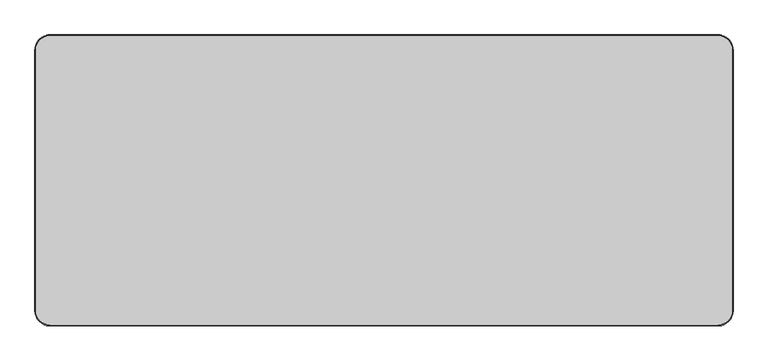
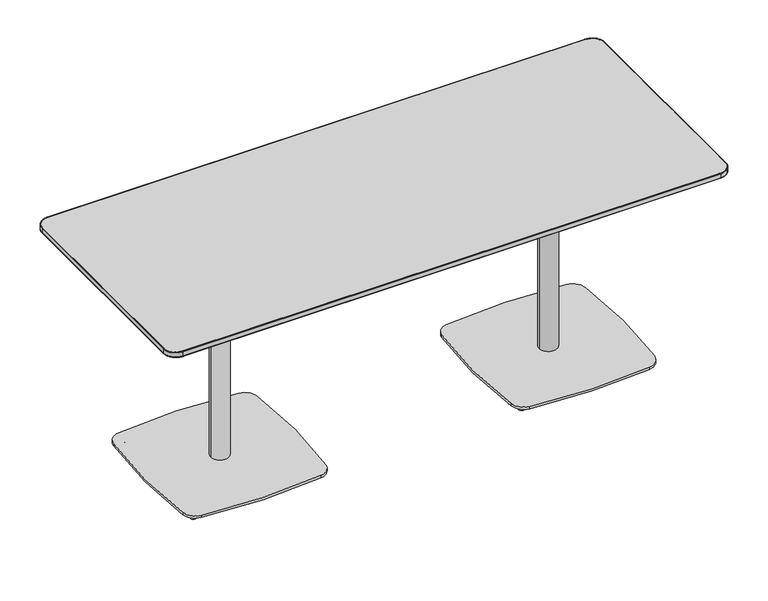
"""IFC4 building model written with IfcOpenShell, lengths in millimetres: furniture geometry, Coalesse_AM_Table_Conference_Montara650_WorkHeight_Rectangular : 30D x 72W."""

from ifc_helpers import new_model, si_unit, point, frame, frame_2d, origin, place, context, project, spatial, polyline, circle_curve, ellipse_curve, trimmed, segment, composite_curve, outline, extrude, source, transform, mapped, element, save
from ifc_brep_helpers import plane_surface, cylinder_surface, revolved_surface, spline_surface, advanced_brep


def furniture_811100f7(model_context):
    return source(origin(), model_context, "Body", "SolidModel", [
        advanced_brep(
        [(749.0044343, 204.892028, 0.0), (728.3026873, 204.892028, 0.0), (753.1315608, 204.892028, 11.9999882), (724.1755608, 204.892028, 11.9999882)],
        [
            (0, 1, circle_curve(frame((738.6535608, 204.892028, 0.0), z_axis=(0.0, 0.0, -1.0), x_axis=(1.0, 0.0, 0.0)), 10.3508735)),
            (1, 0, circle_curve(frame((738.6535608, 204.892028, 0.0), z_axis=(0.0, 0.0, -1.0), x_axis=(-1.0, 0.0, 0.0)), 10.3508735)),
            (2, 3, circle_curve(frame((738.6535608, 204.892028, 11.9999882), z_axis=(0.0, 0.0, 1.0), x_axis=(-1.0, 0.0, 0.0)), 14.478)),
            (3, 2, circle_curve(frame((738.6535608, 204.892028, 11.9999882), z_axis=(0.0, 0.0, 1.0), x_axis=(1.0, 0.0, 0.0)), 14.478)),
            (3, 1),
            (0, 2),
        ],
        [
            plane_surface(frame((738.6535608, 204.892028, 0.0), z_axis=(0.0, 0.0, -1.0), x_axis=(0.0, 1.0, 0.0))),
            plane_surface(frame((738.6535608, 204.892028, 11.9999882), z_axis=(0.0, 0.0, 1.0), x_axis=(0.0, 1.0, 0.0))),
            revolved_surface(polyline([(749.0044342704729, 204.892028, 0.0), (753.1315608, 204.892028, 11.999988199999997)]), (738.6535608, 204.892028, -30.0960871), (0.0, 0.0, 1.0)),
            revolved_surface(polyline([(728.3026873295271, 204.892028, 0.0), (724.1755608, 204.892028, 11.999988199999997)]), (738.6535608, 204.892028, -30.0960871), (0.0, 0.0, 1.0)),
        ],
        [
            (0, [[1, 2]]),
            (1, [[3, 4]]),
            (2, [[-4, 5, -1, 6]]),
            (3, [[-3, -6, -2, -5]]),
        ],
    ),
        advanced_brep(
        [(749.0044343, -204.892028, 0.0), (728.3026873, -204.892028, 0.0), (753.1315608, -204.892028, 11.9999882), (724.1755608, -204.892028, 11.9999882)],
        [
            (0, 1, circle_curve(frame((738.6535608, -204.892028, 0.0), z_axis=(0.0, 0.0, -1.0), x_axis=(1.0, 0.0, 0.0)), 10.3508735)),
            (1, 0, circle_curve(frame((738.6535608, -204.892028, 0.0), z_axis=(0.0, 0.0, -1.0), x_axis=(-1.0, 0.0, 0.0)), 10.3508735)),
            (2, 3, circle_curve(frame((738.6535608, -204.892028, 11.9999882), z_axis=(0.0, 0.0, 1.0), x_axis=(-1.0, 0.0, 0.0)), 14.478)),
            (3, 2, circle_curve(frame((738.6535608, -204.892028, 11.9999882), z_axis=(0.0, 0.0, 1.0), x_axis=(1.0, 0.0, 0.0)), 14.478)),
            (2, 0),
            (1, 3),
        ],
        [
            plane_surface(frame((738.6535608, -204.892028, 0.0), z_axis=(0.0, 0.0, -1.0), x_axis=(0.0, 1.0, 0.0))),
            plane_surface(frame((738.6535608, -204.892028, 11.9999882), z_axis=(0.0, 0.0, 1.0), x_axis=(0.0, 1.0, 0.0))),
            revolved_surface(polyline([(728.3026873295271, -204.892028, 0.0), (724.1755608, -204.892028, 11.999988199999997)]), (738.6535608, -204.892028, -30.0960871), (0.0, 0.0, 1.0)),
            revolved_surface(polyline([(749.0044342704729, -204.892028, 0.0), (753.1315608, -204.892028, 11.999988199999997)]), (738.6535608, -204.892028, -30.0960871), (0.0, 0.0, 1.0)),
        ],
        [
            (0, [[1, 2]]),
            (1, [[3, 4]]),
            (2, [[-3, 5, -2, 6]]),
            (3, [[-4, -6, -1, -5]]),
        ],
    ),
        advanced_brep(
        [(317.7955657, 204.892028, 0.0), (338.4973127, 204.892028, 0.0), (313.6684392, 204.892028, 11.9999882), (342.6244392, 204.892028, 11.9999882)],
        [
            (0, 1, circle_curve(frame((328.1464392, 204.892028, 0.0), z_axis=(0.0, 0.0, -1.0), x_axis=(-1.0, 0.0, 0.0)), 10.3508735)),
            (1, 0, circle_curve(frame((328.1464392, 204.892028, 0.0), z_axis=(0.0, 0.0, -1.0), x_axis=(1.0, 0.0, 0.0)), 10.3508735)),
            (2, 3, circle_curve(frame((328.1464392, 204.892028, 11.9999882), z_axis=(0.0, 0.0, 1.0), x_axis=(1.0, 0.0, 0.0)), 14.478)),
            (3, 2, circle_curve(frame((328.1464392, 204.892028, 11.9999882), z_axis=(0.0, 0.0, 1.0), x_axis=(-1.0, 0.0, 0.0)), 14.478)),
            (2, 0),
            (1, 3),
        ],
        [
            plane_surface(frame((328.1464392, 204.892028, 0.0), z_axis=(0.0, 0.0, -1.0), x_axis=(0.0, -1.0, 0.0))),
            plane_surface(frame((328.1464392, 204.892028, 11.9999882), z_axis=(0.0, 0.0, 1.0), x_axis=(0.0, -1.0, 0.0))),
            revolved_surface(polyline([(338.49731267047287, 204.892028, 0.0), (342.6244392, 204.892028, 11.999988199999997)]), (328.1464392, 204.892028, -30.0960871), (0.0, 0.0, 1.0)),
            revolved_surface(polyline([(317.7955657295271, 204.892028, 0.0), (313.6684392, 204.892028, 11.999988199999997)]), (328.1464392, 204.892028, -30.0960871), (0.0, 0.0, 1.0)),
        ],
        [
            (0, [[1, 2]]),
            (1, [[3, 4]]),
            (2, [[-3, 5, -2, 6]]),
            (3, [[-4, -6, -1, -5]]),
        ],
    ),
        advanced_brep(
        [(317.7955657, -204.892028, 0.0), (338.4973127, -204.892028, 0.0), (313.6684392, -204.892028, 11.9999882), (342.6244392, -204.892028, 11.9999882)],
        [
            (0, 1, circle_curve(frame((328.1464392, -204.892028, 0.0), z_axis=(0.0, 0.0, -1.0), x_axis=(-1.0, 0.0, 0.0)), 10.3508735)),
            (1, 0, circle_curve(frame((328.1464392, -204.892028, 0.0), z_axis=(0.0, 0.0, -1.0), x_axis=(1.0, 0.0, 0.0)), 10.3508735)),
            (2, 3, circle_curve(frame((328.1464392, -204.892028, 11.9999882), z_axis=(0.0, 0.0, 1.0), x_axis=(1.0, 0.0, 0.0)), 14.478)),
            (3, 2, circle_curve(frame((328.1464392, -204.892028, 11.9999882), z_axis=(0.0, 0.0, 1.0), x_axis=(-1.0, 0.0, 0.0)), 14.478)),
            (3, 1),
            (0, 2),
        ],
        [
            plane_surface(frame((328.1464392, -204.892028, 0.0), z_axis=(0.0, 0.0, -1.0), x_axis=(0.0, -1.0, 0.0))),
            plane_surface(frame((328.1464392, -204.892028, 11.9999882), z_axis=(0.0, 0.0, 1.0), x_axis=(0.0, -1.0, 0.0))),
            revolved_surface(polyline([(317.7955657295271, -204.892028, 0.0), (313.6684392, -204.892028, 11.999988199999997)]), (328.1464392, -204.892028, -30.0960871), (0.0, 0.0, 1.0)),
            revolved_surface(polyline([(338.49731267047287, -204.892028, 0.0), (342.6244392, -204.892028, 11.999988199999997)]), (328.1464392, -204.892028, -30.0960871), (0.0, 0.0, 1.0)),
        ],
        [
            (0, [[1, 2]]),
            (1, [[3, 4]]),
            (2, [[-4, 5, -1, 6]]),
            (3, [[-3, -6, -2, -5]]),
        ],
    ),
        extrude(outline(composite_curve([segment(trimmed(circle_curve(frame_2d((534.6702107, -1459.4269529)), 1703.8365498), [point((338.9758413, 233.1340363))], [point((727.7022914, 233.4397294))], False, "CARTESIAN"), True, "CONTINUOUS"), segment(trimmed(circle_curve(frame_2d((722.6664351, 189.2759133)), 44.45), [point((727.7022914, 233.4397294))], [point((766.8410299, 194.2163254))], False, "CARTESIAN"), True, "CONTINUOUS"), segment(trimmed(circle_curve(frame_2d((-969.7397991, 5.89e-05)), 1747.4074894), [point((766.8410299, 194.2163254))], [point((766.838325, -194.2403925))], False, "CARTESIAN"), True, "CONTINUOUS"), segment(trimmed(circle_curve(frame_2d((722.663799, -189.2993652)), 44.45), [point((766.838325, -194.2403925))], [point((727.977927, -233.4305622))], False, "CARTESIAN"), True, "CONTINUOUS"), segment(trimmed(circle_curve(frame_2d((537.7367152, 1346.4283112)), 1591.2717488), [point((727.977927, -233.4305622))], [point((339.4996689, -232.4471911))], False, "CARTESIAN"), True, "CONTINUOUS"), segment(trimmed(circle_curve(frame_2d((345.0371496, -188.3434633)), 44.45), [point((339.4996689, -232.4471911))], [point((300.9116252, -193.704489))], False, "CARTESIAN"), True, "CONTINUOUS"), segment(trimmed(circle_curve(frame_2d((1930.9488879, 4.3367087)), 1642.0236885), [point((300.9116252, -193.704489))], [point((299.9290283, 194.115557))], False, "CARTESIAN"), True, "CONTINUOUS"), segment(trimmed(circle_curve(frame_2d((344.0811518, 188.9781952)), 44.45), [point((299.9290283, 194.115557))], [point((338.9758413, 233.1340363))], False, "CARTESIAN"), True, "CONTINUOUS")], self_intersect=False)), frame((0.0, 0.0, 11.999986), z_axis=(0.0, 0.0, 1.0), x_axis=(1.0, 0.0, 0.0)), (0.0, 0.0, 1.0), 8.0000105),
        advanced_brep(
        [(357.2373868, 0.0, 690.755027), (709.5626132, 0.0, 690.755027), (665.0004101, 0.0, 690.755027), (401.7995899, 0.0, 690.755027), (654.4488662, 0.0, 689.6460151), (412.3511338, 0.0, 689.6460151), (582.1461809, 0.0, 674.9837029), (484.6538191, 0.0, 674.9837029), (570.812985, 0.0, 674.9837029), (495.987015, 0.0, 674.9837029), (503.8504172, 0.0, 686.7852036), (562.9495828, 0.0, 686.7852036), (562.9495828, 0.0, 19.9999965), (503.8504172, 0.0, 19.9999965), (533.4, 0.0, 19.9999965), (533.4, 0.0, 693.930027), (709.5626132, 0.0, 693.930027), (357.2373868, 0.0, 693.930027), (566.7511087, 0.0, 676.4383874), (500.0488913, 0.0, 676.4383874), (565.112334, 0.0, 686.7852036), (501.687666, 0.0, 686.7852036)],
        [
            (0, 1, circle_curve(frame((533.4, 0.0, 690.755027), z_axis=(0.0, 0.0, -1.0), x_axis=(1.0, 0.0, 0.0)), 176.1626132)),
            (1, 2),
            (2, 3, circle_curve(frame((533.4, 0.0, 690.755027), z_axis=(0.0, 0.0, 1.0), x_axis=(1.0, 0.0, 0.0)), 131.6004101)),
            (3, 0),
            (1, 0, circle_curve(frame((533.4, 0.0, 690.755027), z_axis=(0.0, 0.0, -1.0), x_axis=(1.0, 0.0, 0.0)), 176.1626132)),
            (3, 2, circle_curve(frame((533.4, 0.0, 690.755027), z_axis=(0.0, 0.0, 1.0), x_axis=(1.0, 0.0, 0.0)), 131.6004101)),
            (2, 4),
            (4, 5, circle_curve(frame((533.4, 0.0, 689.6460151), z_axis=(0.0, 0.0, 1.0), x_axis=(1.0, 0.0, 0.0)), 121.0488662)),
            (5, 3),
            (5, 4, circle_curve(frame((533.4, 0.0, 689.6460151), z_axis=(0.0, 0.0, 1.0), x_axis=(1.0, 0.0, 0.0)), 121.0488662)),
            (4, 6),
            (6, 7, circle_curve(frame((533.4, 0.0, 674.9837029), z_axis=(0.0, 0.0, 1.0), x_axis=(1.0, 0.0, 0.0)), 48.7461809)),
            (7, 5),
            (7, 6, circle_curve(frame((533.4, 0.0, 674.9837029), z_axis=(0.0, 0.0, 1.0), x_axis=(1.0, 0.0, 0.0)), 48.7461809)),
            (6, 8),
            (8, 9, circle_curve(frame((533.4, 0.0, 674.9837029), z_axis=(0.0, 0.0, 1.0), x_axis=(1.0, 0.0, 0.0)), 37.412985)),
            (9, 7),
            (9, 8, circle_curve(frame((533.4, 0.0, 674.9837029), z_axis=(0.0, 0.0, 1.0), x_axis=(1.0, 0.0, 0.0)), 37.412985)),
            (10, 11, circle_curve(frame((533.4, 0.0, 686.7852036), z_axis=(0.0, 0.0, -1.0), x_axis=(1.0, 0.0, 0.0)), 29.5495828)),
            (11, 12),
            (12, 13, circle_curve(frame((533.4, 0.0, 19.9999965), z_axis=(0.0, 0.0, 1.0), x_axis=(1.0, 0.0, 0.0)), 29.5495828)),
            (13, 10),
            (11, 10, circle_curve(frame((533.4, 0.0, 686.7852036), z_axis=(0.0, 0.0, -1.0), x_axis=(1.0, 0.0, 0.0)), 29.5495828)),
            (13, 12, circle_curve(frame((533.4, 0.0, 19.9999965), z_axis=(0.0, 0.0, 1.0), x_axis=(1.0, 0.0, 0.0)), 29.5495828)),
            (12, 14),
            (14, 13),
            (15, 16),
            (16, 17, circle_curve(frame((533.4, 0.0, 693.930027), z_axis=(0.0, 0.0, 1.0), x_axis=(1.0, 0.0, 0.0)), 176.1626132)),
            (17, 15),
            (17, 16, circle_curve(frame((533.4, 0.0, 693.930027), z_axis=(0.0, 0.0, 1.0), x_axis=(1.0, 0.0, 0.0)), 176.1626132)),
            (16, 1),
            (0, 17),
            (8, 18),
            (18, 19, circle_curve(frame((533.4, 0.0, 676.4383874), z_axis=(0.0, 0.0, 1.0), x_axis=(1.0, 0.0, 0.0)), 33.3511087)),
            (19, 9),
            (19, 18, circle_curve(frame((533.4, 0.0, 676.4383874), z_axis=(0.0, 0.0, 1.0), x_axis=(1.0, 0.0, 0.0)), 33.3511087)),
            (18, 20),
            (20, 21, circle_curve(frame((533.4, 0.0, 686.7852036), z_axis=(0.0, 0.0, 1.0), x_axis=(1.0, 0.0, 0.0)), 31.712334)),
            (21, 19),
            (21, 20, circle_curve(frame((533.4, 0.0, 686.7852036), z_axis=(0.0, 0.0, 1.0), x_axis=(1.0, 0.0, 0.0)), 31.712334)),
            (20, 11),
            (10, 21),
        ],
        [
            plane_surface(frame((533.4, 0.0, 690.755027), z_axis=(0.0, 0.0, -1.0), x_axis=(1.0, 0.0, 0.0))),
            revolved_surface(polyline([(654.4488662, 0.0, 689.6460151), (665.0004101, 0.0, 690.755027)]), (533.4, 0.0, 439.0999965), (0.0, 0.0, 1.0)),
            revolved_surface(polyline([(582.1461809, 0.0, 674.9837029), (654.4488662, 0.0, 689.6460151)]), (533.4, 0.0, 439.0999965), (0.0, 0.0, 1.0)),
            plane_surface(frame((533.4, 0.0, 674.9837029), z_axis=(0.0, 0.0, -1.0), x_axis=(1.0, 0.0, 0.0))),
            cylinder_surface(frame((533.4, 0.0, 439.0999965), z_axis=(0.0, 0.0, 1.0), x_axis=(1.0, 0.0, 0.0)), 29.5495828),
            plane_surface(frame((533.4, 0.0, 19.9999965), z_axis=(0.0, 0.0, -1.0), x_axis=(1.0, 0.0, 0.0))),
            plane_surface(frame((533.4, 0.0, 693.930027), z_axis=(0.0, 0.0, 1.0), x_axis=(1.0, 0.0, 0.0))),
            cylinder_surface(frame((533.4, 0.0, 439.0999965), z_axis=(0.0, 0.0, 1.0), x_axis=(1.0, 0.0, 0.0)), 176.1626132),
            revolved_surface(polyline([(566.7511087, 0.0, 676.4383874), (570.812985, 0.0, 674.9837029)]), (533.4, 0.0, 439.0999965), (0.0, 0.0, 1.0)),
            revolved_surface(polyline([(565.112334, 0.0, 686.7852036), (566.7511087, 0.0, 676.4383874)]), (533.4, 0.0, 439.0999965), (0.0, 0.0, 1.0)),
            plane_surface(frame((533.4, 0.0, 686.7852036), z_axis=(0.0, 0.0, -1.0), x_axis=(1.0, 0.0, 0.0))),
        ],
        [
            (0, [[1, 2, 3, 4]]),
            (0, [[5, -4, 6, -2]]),
            (1, [[-3, 7, 8, 9]]),
            (1, [[-6, -9, 10, -7]]),
            (2, [[-8, 11, 12, 13]]),
            (2, [[-10, -13, 14, -11]]),
            (3, [[-12, 15, 16, 17]]),
            (3, [[-14, -17, 18, -15]]),
            (4, [[19, 20, 21, 22]]),
            (4, [[23, -22, 24, -20]]),
            (5, [[-21, 25, 26]]),
            (5, [[-24, -26, -25]]),
            (6, [[27, 28, 29]]),
            (6, [[-29, 30, -27]]),
            (7, [[-28, 31, -1, 32]]),
            (7, [[-30, -32, -5, -31]]),
            (8, [[-16, 33, 34, 35]]),
            (8, [[-18, -35, 36, -33]]),
            (9, [[-34, 37, 38, 39]]),
            (9, [[-36, -39, 40, -37]]),
            (10, [[-38, 41, -19, 42]]),
            (10, [[-40, -42, -23, -41]]),
        ],
    ),
        advanced_brep(
        [(-738.6535608, 215.2429015, 0.0), (-738.6535608, 194.5411546, 0.0), (-738.6535608, 219.370028, 11.9999882), (-738.6535608, 190.414028, 11.9999882)],
        [
            (0, 1, circle_curve(frame((-738.6535608, 204.892028, 0.0), z_axis=(0.0, 0.0, -1.0), x_axis=(0.0, 1.0, 0.0)), 10.3508735)),
            (1, 0, circle_curve(frame((-738.6535608, 204.892028, 0.0), z_axis=(0.0, 0.0, -1.0), x_axis=(0.0, -1.0, 0.0)), 10.3508735)),
            (2, 3, circle_curve(frame((-738.6535608, 204.892028, 11.9999882), z_axis=(0.0, 0.0, 1.0), x_axis=(0.0, -1.0, 0.0)), 14.478)),
            (3, 2, circle_curve(frame((-738.6535608, 204.892028, 11.9999882), z_axis=(0.0, 0.0, 1.0), x_axis=(0.0, 1.0, 0.0)), 14.478)),
            (2, 0),
            (1, 3),
        ],
        [
            plane_surface(frame((-738.6535608, 204.892028, 0.0), z_axis=(0.0, 0.0, -1.0), x_axis=(-1.0, 0.0, 0.0))),
            plane_surface(frame((-738.6535608, 204.892028, 11.9999882), z_axis=(0.0, 0.0, 1.0), x_axis=(-1.0, 0.0, 0.0))),
            revolved_surface(polyline([(-738.6535608, 194.5411545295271, 0.0), (-738.6535608, 190.414028, 11.999988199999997)]), (-738.6535608, 204.892028, -30.0960871), (0.0, 0.0, 1.0)),
            revolved_surface(polyline([(-738.6535608, 215.2429014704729, 0.0), (-738.6535608, 219.370028, 11.999988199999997)]), (-738.6535608, 204.892028, -30.0960871), (0.0, 0.0, 1.0)),
        ],
        [
            (0, [[1, 2]]),
            (1, [[3, 4]]),
            (2, [[-3, 5, -2, 6]]),
            (3, [[-4, -6, -1, -5]]),
        ],
    ),
        advanced_brep(
        [(-738.6535608, -194.5411546, 0.0), (-738.6535608, -215.2429015, 0.0), (-738.6535608, -190.414028, 11.9999882), (-738.6535608, -219.370028, 11.9999882)],
        [
            (0, 1, circle_curve(frame((-738.6535608, -204.892028, 0.0), z_axis=(0.0, 0.0, -1.0), x_axis=(0.0, 1.0, 0.0)), 10.3508735)),
            (1, 0, circle_curve(frame((-738.6535608, -204.892028, 0.0), z_axis=(0.0, 0.0, -1.0), x_axis=(0.0, -1.0, 0.0)), 10.3508735)),
            (2, 3, circle_curve(frame((-738.6535608, -204.892028, 11.9999882), z_axis=(0.0, 0.0, 1.0), x_axis=(0.0, -1.0, 0.0)), 14.478)),
            (3, 2, circle_curve(frame((-738.6535608, -204.892028, 11.9999882), z_axis=(0.0, 0.0, 1.0), x_axis=(0.0, 1.0, 0.0)), 14.478)),
            (3, 1),
            (0, 2),
        ],
        [
            plane_surface(frame((-738.6535608, -204.892028, 0.0), z_axis=(0.0, 0.0, -1.0), x_axis=(-1.0, 0.0, 0.0))),
            plane_surface(frame((-738.6535608, -204.892028, 11.9999882), z_axis=(0.0, 0.0, 1.0), x_axis=(-1.0, 0.0, 0.0))),
            revolved_surface(polyline([(-738.6535608, -194.5411545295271, 0.0), (-738.6535608, -190.414028, 11.999988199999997)]), (-738.6535608, -204.892028, -30.0960871), (0.0, 0.0, 1.0)),
            revolved_surface(polyline([(-738.6535608, -215.2429014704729, 0.0), (-738.6535608, -219.370028, 11.999988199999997)]), (-738.6535608, -204.892028, -30.0960871), (0.0, 0.0, 1.0)),
        ],
        [
            (0, [[1, 2]]),
            (1, [[3, 4]]),
            (2, [[-4, 5, -1, 6]]),
            (3, [[-3, -6, -2, -5]]),
        ],
    ),
        advanced_brep(
        [(-328.1464392, 194.5411546, 0.0), (-328.1464392, 215.2429015, 0.0), (-328.1464392, 190.414028, 11.9999882), (-328.1464392, 219.370028, 11.9999882)],
        [
            (0, 1, circle_curve(frame((-328.1464392, 204.892028, 0.0), z_axis=(0.0, 0.0, -1.0), x_axis=(0.0, -1.0, 0.0)), 10.3508735)),
            (1, 0, circle_curve(frame((-328.1464392, 204.892028, 0.0), z_axis=(0.0, 0.0, -1.0), x_axis=(0.0, 1.0, 0.0)), 10.3508735)),
            (2, 3, circle_curve(frame((-328.1464392, 204.892028, 11.9999882), z_axis=(0.0, 0.0, 1.0), x_axis=(0.0, 1.0, 0.0)), 14.478)),
            (3, 2, circle_curve(frame((-328.1464392, 204.892028, 11.9999882), z_axis=(0.0, 0.0, 1.0), x_axis=(0.0, -1.0, 0.0)), 14.478)),
            (3, 1),
            (0, 2),
        ],
        [
            plane_surface(frame((-328.1464392, 204.892028, 0.0), z_axis=(0.0, 0.0, -1.0), x_axis=(1.0, 0.0, 0.0))),
            plane_surface(frame((-328.1464392, 204.892028, 11.9999882), z_axis=(0.0, 0.0, 1.0), x_axis=(1.0, 0.0, 0.0))),
            revolved_surface(polyline([(-328.1464392, 194.5411545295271, 0.0), (-328.1464392, 190.414028, 11.999988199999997)]), (-328.1464392, 204.892028, -30.0960871), (0.0, 0.0, 1.0)),
            revolved_surface(polyline([(-328.1464392, 215.2429014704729, 0.0), (-328.1464392, 219.370028, 11.999988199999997)]), (-328.1464392, 204.892028, -30.0960871), (0.0, 0.0, 1.0)),
        ],
        [
            (0, [[1, 2]]),
            (1, [[3, 4]]),
            (2, [[-4, 5, -1, 6]]),
            (3, [[-3, -6, -2, -5]]),
        ],
    ),
        advanced_brep(
        [(-328.1464392, -215.2429015, 0.0), (-328.1464392, -194.5411546, 0.0), (-328.1464392, -219.370028, 11.9999882), (-328.1464392, -190.414028, 11.9999882)],
        [
            (0, 1, circle_curve(frame((-328.1464392, -204.892028, 0.0), z_axis=(0.0, 0.0, -1.0), x_axis=(0.0, -1.0, 0.0)), 10.3508735)),
            (1, 0, circle_curve(frame((-328.1464392, -204.892028, 0.0), z_axis=(0.0, 0.0, -1.0), x_axis=(0.0, 1.0, 0.0)), 10.3508735)),
            (2, 3, circle_curve(frame((-328.1464392, -204.892028, 11.9999882), z_axis=(0.0, 0.0, 1.0), x_axis=(0.0, 1.0, 0.0)), 14.478)),
            (3, 2, circle_curve(frame((-328.1464392, -204.892028, 11.9999882), z_axis=(0.0, 0.0, 1.0), x_axis=(0.0, -1.0, 0.0)), 14.478)),
            (2, 0),
            (1, 3),
        ],
        [
            plane_surface(frame((-328.1464392, -204.892028, 0.0), z_axis=(0.0, 0.0, -1.0), x_axis=(1.0, 0.0, 0.0))),
            plane_surface(frame((-328.1464392, -204.892028, 11.9999882), z_axis=(0.0, 0.0, 1.0), x_axis=(1.0, 0.0, 0.0))),
            revolved_surface(polyline([(-328.1464392, -194.5411545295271, 0.0), (-328.1464392, -190.414028, 11.999988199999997)]), (-328.1464392, -204.892028, -30.0960871), (0.0, 0.0, 1.0)),
            revolved_surface(polyline([(-328.1464392, -215.2429014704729, 0.0), (-328.1464392, -219.370028, 11.999988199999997)]), (-328.1464392, -204.892028, -30.0960871), (0.0, 0.0, 1.0)),
        ],
        [
            (0, [[1, 2]]),
            (1, [[3, 4]]),
            (2, [[-3, 5, -2, 6]]),
            (3, [[-4, -6, -1, -5]]),
        ],
    ),
        extrude(outline(composite_curve([segment(trimmed(circle_curve(frame_2d((-344.0811518, 188.9781952)), 44.45), [point((-338.9758413, 233.1340363))], [point((-299.9290283, 194.115557))], False, "CARTESIAN"), True, "CONTINUOUS"), segment(trimmed(circle_curve(frame_2d((-1930.9488879, 4.3367087)), 1642.0236885), [point((-299.9290283, 194.115557))], [point((-300.9116252, -193.704489))], False, "CARTESIAN"), True, "CONTINUOUS"), segment(trimmed(circle_curve(frame_2d((-345.0371496, -188.3434633)), 44.45), [point((-300.9116252, -193.704489))], [point((-339.4996689, -232.4471911))], False, "CARTESIAN"), True, "CONTINUOUS"), segment(trimmed(circle_curve(frame_2d((-537.7367152, 1346.4283112)), 1591.2717488), [point((-339.4996689, -232.4471911))], [point((-727.977927, -233.4305622))], False, "CARTESIAN"), True, "CONTINUOUS"), segment(trimmed(circle_curve(frame_2d((-722.663799, -189.2993652)), 44.45), [point((-727.977927, -233.4305622))], [point((-766.838325, -194.2403925))], False, "CARTESIAN"), True, "CONTINUOUS"), segment(trimmed(circle_curve(frame_2d((969.7397991, 5.89e-05)), 1747.4074894), [point((-766.838325, -194.2403925))], [point((-766.8410299, 194.2163254))], False, "CARTESIAN"), True, "CONTINUOUS"), segment(trimmed(circle_curve(frame_2d((-722.6664351, 189.2759133)), 44.45), [point((-766.8410299, 194.2163254))], [point((-727.7022914, 233.4397294))], False, "CARTESIAN"), True, "CONTINUOUS"), segment(trimmed(circle_curve(frame_2d((-534.6702107, -1459.4269529)), 1703.8365498), [point((-727.7022914, 233.4397294))], [point((-338.9758413, 233.1340363))], False, "CARTESIAN"), True, "CONTINUOUS")], self_intersect=False)), frame((0.0, 0.0, 11.999986), z_axis=(0.0, 0.0, 1.0), x_axis=(1.0, 0.0, 0.0)), (0.0, 0.0, 1.0), 8.0000105),
        advanced_brep(
        [(849.4626362, 316.0635082, 693.930027), (849.4626362, -316.0635082, 693.930027), (-849.4626362, -316.0635082, 693.930027), (-849.4626362, 316.0635082, 693.930027), (874.188625, 378.968, 706.195891), (-874.188625, 378.968, 706.195891), (-912.288625, 340.868, 706.195891), (-912.288625, -340.868, 706.195891), (-874.188625, -378.968, 706.195891), (874.188625, -378.968, 706.195891), (912.288625, -340.868, 706.195891), (912.288625, 340.868, 706.195891)],
        [
            (0, 1),
            (1, 2),
            (2, 3),
            (3, 0),
            (4, 5),
            (5, 6, circle_curve(frame((-874.188625, 340.868, 706.195891), z_axis=(0.0, 0.0, 1.0), x_axis=(1.0, 0.0, 0.0)), 38.1)),
            (6, 7),
            (7, 8, circle_curve(frame((-874.188625, -340.868, 706.195891), z_axis=(0.0, 0.0, 1.0), x_axis=(1.0, 0.0, 0.0)), 38.1)),
            (8, 9),
            (9, 10, circle_curve(frame((874.188625, -340.868, 706.195891), z_axis=(0.0, 0.0, 1.0), x_axis=(1.0, 0.0, 0.0)), 38.1)),
            (10, 11),
            (11, 4, circle_curve(frame((874.188625, 340.868, 706.195891), z_axis=(0.0, 0.0, 1.0), x_axis=(1.0, 0.0, 0.0)), 38.1)),
            (11, 0),
            (0, 4),
            (10, 1),
            (9, 1),
            (8, 2),
            (7, 2),
            (6, 3),
            (5, 3),
        ],
        [
            plane_surface(frame((0.0, 0.0, 693.930027), z_axis=(0.0, 0.0, -1.0), x_axis=(-1.0, 0.0, 0.0))),
            plane_surface(frame((0.0, 0.0, 706.195891), z_axis=(0.0, 0.0, 1.0), x_axis=(-1.0, 0.0, 0.0))),
            spline_surface(2, 1, [[(874.188625, 378.968, 706.195891), (849.4626362, 316.0635082, 693.930027)], [(912.288625, 378.968, 706.195891), (849.4626362, 316.0635082, 693.930027)], [(912.288625, 340.868, 706.195891), (849.4626362, 316.0635082, 693.930027)]], [3, 3], [2, 2], [0.0, 1.0], [0.0, 1.0], weights=[[1.0, 1.0], [0.7071067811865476, 0.7071067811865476], [1.0, 1.0]]),
            plane_surface(frame((912.288625, 0.0, 706.195891), z_axis=(0.19161772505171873, 0.0, -0.9814696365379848), x_axis=(0.0, -1.0, 0.0))),
            spline_surface(2, 1, [[(912.288625, -340.868, 706.195891), (849.4626362, -316.0635082, 693.930027)], [(912.288625, -378.968, 706.195891), (849.4626362, -316.0635082, 693.930027)], [(874.188625, -378.968, 706.195891), (849.4626362, -316.0635082, 693.930027)]], [3, 3], [2, 2], [0.0, 1.0], [0.0, 1.0], weights=[[1.0, 1.0], [0.7071067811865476, 0.7071067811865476], [1.0, 1.0]]),
            plane_surface(frame((0.0, -378.968, 706.195891), z_axis=(0.0, -0.19138735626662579, -0.9815145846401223), x_axis=(-1.0, 0.0, 0.0))),
            spline_surface(2, 1, [[(-874.188625, -378.968, 706.195891), (-849.4626362, -316.0635082, 693.930027)], [(-912.288625, -378.968, 706.195891), (-849.4626362, -316.0635082, 693.930027)], [(-912.288625, -340.868, 706.195891), (-849.4626362, -316.0635082, 693.930027)]], [3, 3], [2, 2], [0.0, 1.0], [0.0, 1.0], weights=[[1.0, 1.0], [0.7071067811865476, 0.7071067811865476], [1.0, 1.0]]),
            plane_surface(frame((-912.288625, 0.0, 706.195891), z_axis=(-0.1916177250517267, 0.0, -0.9814696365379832), x_axis=(0.0, 1.0, 0.0))),
            spline_surface(2, 1, [[(-912.288625, 340.868, 706.195891), (-849.4626362, 316.0635082, 693.930027)], [(-912.288625, 378.968, 706.195891), (-849.4626362, 316.0635082, 693.930027)], [(-874.188625, 378.968, 706.195891), (-849.4626362, 316.0635082, 693.930027)]], [3, 3], [2, 2], [0.0, 1.0], [0.0, 1.0], weights=[[1.0, 1.0], [0.7071067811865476, 0.7071067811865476], [1.0, 1.0]]),
            plane_surface(frame((0.0, 378.968, 706.195891), z_axis=(0.0, 0.19138735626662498, -0.9815145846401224), x_axis=(1.0, 0.0, 0.0))),
        ],
        [
            (0, [[1, 2, 3, 4]]),
            (1, [[5, 6, 7, 8, 9, 10, 11, 12]]),
            (2, [[-12, 13, 14]]),
            (3, [[-11, 15, -1, -13]]),
            (4, [[-10, 16, -15]]),
            (5, [[-9, 17, -2, -16]]),
            (6, [[-8, 18, -17]]),
            (7, [[-7, 19, -3, -18]]),
            (8, [[-6, 20, -19]]),
            (9, [[-5, -14, -4, -20]]),
        ],
    ),
        extrude(outline(composite_curve([segment(trimmed(circle_curve(frame_2d((874.188625, 340.868)), 38.1), [point((874.188625, 378.968))], [point((912.288625, 340.868))], False, "CARTESIAN"), True, "CONTINUOUS"), segment(polyline([(912.288625, 340.868), (912.288625, -340.868)]), True, "CONTINUOUS"), segment(trimmed(circle_curve(frame_2d((874.188625, -340.868)), 38.1), [point((912.288625, -340.868))], [point((874.188625, -378.968))], False, "CARTESIAN"), True, "CONTINUOUS"), segment(polyline([(874.188625, -378.968), (-874.188625, -378.968)]), True, "CONTINUOUS"), segment(trimmed(circle_curve(frame_2d((-874.188625, -340.868)), 38.1), [point((-874.188625, -378.968))], [point((-912.288625, -340.868))], False, "CARTESIAN"), True, "CONTINUOUS"), segment(polyline([(-912.288625, -340.868), (-912.288625, 340.868)]), True, "CONTINUOUS"), segment(trimmed(circle_curve(frame_2d((-874.188625, 340.868)), 38.1), [point((-912.288625, 340.868))], [point((-874.188625, 378.968))], False, "CARTESIAN"), True, "CONTINUOUS"), segment(polyline([(-874.188625, 378.968), (874.188625, 378.968)]), True, "CONTINUOUS")], self_intersect=False)), frame((0.0, 0.0, 706.195891), z_axis=(0.0, 0.0, 1.0), x_axis=(1.0, 0.0, 0.0)), (0.0, 0.0, 1.0), 17.704109),
        advanced_brep(
        [(-914.3644915, 340.868, 708.1278467), (-874.188625, 381.0438665, 708.1278467), (-874.188625, 378.968, 706.195891), (-912.288625, 340.868, 706.195891), (-914.3644915, 340.868, 721.8999283), (-874.188625, 381.0438665, 721.8999283), (-912.288625, 340.868, 723.9), (-874.188625, 378.968, 723.9), (-912.288625, -340.868, 706.195891), (-914.3644915, -340.868, 708.1278467), (-914.3644915, -340.868, 721.8999283), (-912.288625, -340.868, 723.9), (-874.188625, -381.0438665, 708.1278467), (-874.188625, -378.968, 706.195891), (-874.188625, -381.0438665, 721.8999283), (-874.188625, -378.968, 723.9), (874.188625, -378.968, 706.195891), (874.188625, -381.0438665, 708.1278467), (874.188625, -381.0438665, 721.8999283), (874.188625, -378.968, 723.9), (914.3644915, -340.868, 708.1278467), (912.288625, -340.868, 706.195891), (914.3644915, -340.868, 721.8999283), (912.288625, -340.868, 723.9), (912.288625, 340.868, 706.195891), (914.3644915, 340.868, 708.1278467), (914.3644915, 340.868, 721.8999283), (912.288625, 340.868, 723.9), (874.188625, 381.0438665, 708.1278467), (874.188625, 378.968, 706.195891), (874.188625, 381.0438665, 721.8999283), (874.188625, 378.968, 723.9)],
        [
            (0, 1, circle_curve(frame((-874.188625, 340.868, 708.1278467), z_axis=(0.0, 0.0, -1.0), x_axis=(0.0, 1.0, 0.0)), 40.1758665)),
            (1, 2, circle_curve(frame((-874.188625, 379.1069224, 708.1278467), z_axis=(-1.0, 0.0, 0.0), x_axis=(0.0, -1.0, 0.0)), 1.9369441)),
            (2, 3, circle_curve(frame((-874.188625, 340.868, 706.195891), z_axis=(0.0, 0.0, 1.0), x_axis=(0.0, 1.0, 0.0)), 38.1)),
            (3, 0, circle_curve(frame((-912.4275474, 340.868, 708.1278467), z_axis=(0.0, 1.0, 0.0), x_axis=(1.0, 0.0, 0.0)), 1.9369441)),
            (4, 5, circle_curve(frame((-874.188625, 340.868, 721.8999283), z_axis=(0.0, 0.0, -1.0), x_axis=(0.0, 1.0, 0.0)), 40.1758665)),
            (5, 1),
            (0, 4),
            (6, 7, circle_curve(frame((-874.188625, 340.868, 723.9), z_axis=(0.0, 0.0, -1.0), x_axis=(0.0, 1.0, 0.0)), 38.1)),
            (7, 5, circle_curve(frame((-874.188625, 379.0424111, 721.8999283), z_axis=(-1.0, 0.0, 0.0), x_axis=(0.0, -1.0, 0.0)), 2.0014554)),
            (4, 6, circle_curve(frame((-912.3630361, 340.868, 721.8999283), z_axis=(0.0, 1.0, 0.0), x_axis=(1.0, 0.0, 0.0)), 2.0014554)),
            (2, 7),
            (6, 3),
            (3, 8),
            (8, 9, circle_curve(frame((-912.4275474, -340.868, 708.1278467), z_axis=(0.0, 1.0, 0.0), x_axis=(1.0, 0.0, 0.0)), 1.9369441)),
            (9, 0),
            (9, 10),
            (10, 4),
            (10, 11, circle_curve(frame((-912.3630361, -340.868, 721.8999283), z_axis=(0.0, 1.0, 0.0), x_axis=(1.0, 0.0, 0.0)), 2.0014554)),
            (11, 6),
            (11, 8),
            (12, 9, circle_curve(frame((-874.188625, -340.868, 708.1278467), z_axis=(0.0, 0.0, -1.0), x_axis=(-1.0, 0.0, 0.0)), 40.1758665)),
            (8, 13, circle_curve(frame((-874.188625, -340.868, 706.195891), z_axis=(0.0, 0.0, 1.0), x_axis=(-1.0, 0.0, 0.0)), 38.1)),
            (13, 12, circle_curve(frame((-874.188625, -379.1069224, 708.1278467), z_axis=(-1.0, 0.0, 0.0), x_axis=(0.0, 1.0, 0.0)), 1.9369441)),
            (14, 10, circle_curve(frame((-874.188625, -340.868, 721.8999283), z_axis=(0.0, 0.0, -1.0), x_axis=(-1.0, 0.0, 0.0)), 40.1758665)),
            (12, 14),
            (15, 11, circle_curve(frame((-874.188625, -340.868, 723.9), z_axis=(0.0, 0.0, -1.0), x_axis=(-1.0, 0.0, 0.0)), 38.1)),
            (14, 15, circle_curve(frame((-874.188625, -379.0424111, 721.8999283), z_axis=(-1.0, 0.0, 0.0), x_axis=(0.0, 1.0, 0.0)), 2.0014554)),
            (15, 13),
            (13, 16),
            (16, 17, circle_curve(frame((874.188625, -379.1069224, 708.1278467), z_axis=(-1.0, 0.0, 0.0), x_axis=(0.0, 1.0, 0.0)), 1.9369441)),
            (17, 12),
            (17, 18),
            (18, 14),
            (18, 19, circle_curve(frame((874.188625, -379.0424111, 721.8999283), z_axis=(-1.0, 0.0, 0.0), x_axis=(0.0, 1.0, 0.0)), 2.0014554)),
            (19, 15),
            (19, 16),
            (20, 17, circle_curve(frame((874.188625, -340.868, 708.1278467), z_axis=(0.0, 0.0, -1.0), x_axis=(0.0, -1.0, 0.0)), 40.1758665)),
            (16, 21, circle_curve(frame((874.188625, -340.868, 706.195891), z_axis=(0.0, 0.0, 1.0), x_axis=(0.0, -1.0, 0.0)), 38.1)),
            (21, 20, circle_curve(frame((912.4275474, -340.868, 708.1278467), z_axis=(0.0, -1.0, 0.0), x_axis=(-1.0, 0.0, 0.0)), 1.9369441)),
            (22, 18, circle_curve(frame((874.188625, -340.868, 721.8999283), z_axis=(0.0, 0.0, -1.0), x_axis=(0.0, -1.0, 0.0)), 40.1758665)),
            (20, 22),
            (23, 19, circle_curve(frame((874.188625, -340.868, 723.9), z_axis=(0.0, 0.0, -1.0), x_axis=(0.0, -1.0, 0.0)), 38.1)),
            (22, 23, circle_curve(frame((912.3630361, -340.868, 721.8999283), z_axis=(0.0, -1.0, 0.0), x_axis=(-1.0, 0.0, 0.0)), 2.0014554)),
            (23, 21),
            (21, 24),
            (24, 25, circle_curve(frame((912.4275474, 340.868, 708.1278467), z_axis=(0.0, -1.0, 0.0), x_axis=(-1.0, 0.0, 0.0)), 1.9369441)),
            (25, 20),
            (25, 26),
            (26, 22),
            (26, 27, circle_curve(frame((912.3630361, 340.868, 721.8999283), z_axis=(0.0, -1.0, 0.0), x_axis=(-1.0, 0.0, 0.0)), 2.0014554)),
            (27, 23),
            (27, 24),
            (28, 25, circle_curve(frame((874.188625, 340.868, 708.1278467), z_axis=(0.0, 0.0, -1.0), x_axis=(1.0, 0.0, 0.0)), 40.1758665)),
            (24, 29, circle_curve(frame((874.188625, 340.868, 706.195891), z_axis=(0.0, 0.0, 1.0), x_axis=(1.0, 0.0, 0.0)), 38.1)),
            (29, 28, circle_curve(frame((874.188625, 379.1069224, 708.1278467), z_axis=(1.0, 0.0, 0.0), x_axis=(0.0, -1.0, 0.0)), 1.9369441)),
            (30, 26, circle_curve(frame((874.188625, 340.868, 721.8999283), z_axis=(0.0, 0.0, -1.0), x_axis=(1.0, 0.0, 0.0)), 40.1758665)),
            (28, 30),
            (31, 27, circle_curve(frame((874.188625, 340.868, 723.9), z_axis=(0.0, 0.0, -1.0), x_axis=(1.0, 0.0, 0.0)), 38.1)),
            (30, 31, circle_curve(frame((874.188625, 379.0424111, 721.8999283), z_axis=(1.0, 0.0, 0.0), x_axis=(0.0, -1.0, 0.0)), 2.0014554)),
            (31, 29),
            (29, 2),
            (1, 28),
            (5, 30),
            (7, 31),
        ],
        [
            revolved_surface(trimmed(ellipse_curve(frame((-874.188625, 379.1069224, 708.1278467), z_axis=(1.0, 0.0, 0.0), x_axis=(0.0, -1.0, 0.0)), 1.9369441, 1.9369441), [point((-874.188625, 378.968, 706.195891))], [point((-874.188625, 381.0438665, 708.1278467))], True, "CARTESIAN"), (-874.188625, 340.868, 0.0), (0.0, 0.0, 1.0)),
            cylinder_surface(frame((-874.188625, 340.868, 0.0), z_axis=(0.0, 0.0, 1.0), x_axis=(0.0, 1.0, 0.0)), 40.1758665),
            revolved_surface(trimmed(ellipse_curve(frame((-874.188625, 379.0424111, 721.8999283), z_axis=(1.0, 0.0, 0.0), x_axis=(0.0, -1.0, 0.0)), 2.0014554, 2.0014554), [point((-874.188625, 381.0438665, 721.8999283))], [point((-874.188625, 378.968, 723.9))], True, "CARTESIAN"), (-874.188625, 340.868, 0.0), (0.0, 0.0, 1.0)),
            revolved_surface(polyline([(-874.188625, 378.968, 723.9), (-874.188625, 378.968, 706.195891)]), (-874.188625, 340.868, 0.0), (0.0, 0.0, 1.0)),
            cylinder_surface(frame((-912.4275474, 340.868, 708.1278467), z_axis=(0.0, 1.0, 0.0), x_axis=(1.0, 0.0, 0.0)), 1.9369441),
            plane_surface(frame((-914.3644915, 340.868, 708.1278467), z_axis=(-1.0, 0.0, 0.0), x_axis=(0.0, -1.0, 0.0))),
            cylinder_surface(frame((-912.3630361, 340.868, 721.8999283), z_axis=(0.0, 1.0, 0.0), x_axis=(1.0, 0.0, 0.0)), 2.0014554),
            plane_surface(frame((-912.288625, 340.868, 723.9), z_axis=(1.0, 0.0, 0.0), x_axis=(0.0, -1.0, 0.0))),
            revolved_surface(trimmed(ellipse_curve(frame((-912.4275474, -340.868, 708.1278467), z_axis=(0.0, 1.0, 0.0), x_axis=(1.0, 0.0, 0.0)), 1.9369441, 1.9369441), [point((-912.288625, -340.868, 706.195891))], [point((-914.3644915, -340.868, 708.1278467))], True, "CARTESIAN"), (-874.188625, -340.868, 0.0), (0.0, 0.0, 1.0)),
            cylinder_surface(frame((-874.188625, -340.868, 0.0), z_axis=(0.0, 0.0, 1.0), x_axis=(-1.0, 0.0, 0.0)), 40.1758665),
            revolved_surface(trimmed(ellipse_curve(frame((-912.3630361, -340.868, 721.8999283), z_axis=(0.0, 1.0, 0.0), x_axis=(1.0, 0.0, 0.0)), 2.0014554, 2.0014554), [point((-914.3644915, -340.868, 721.8999283))], [point((-912.288625, -340.868, 723.9))], True, "CARTESIAN"), (-874.188625, -340.868, 0.0), (0.0, 0.0, 1.0)),
            revolved_surface(polyline([(-912.288625, -340.868, 723.9), (-912.288625, -340.868, 706.195891)]), (-874.188625, -340.868, 0.0), (0.0, 0.0, 1.0)),
            cylinder_surface(frame((-874.188625, -379.1069224, 708.1278467), z_axis=(-1.0, 0.0, 0.0), x_axis=(0.0, 1.0, 0.0)), 1.9369441),
            plane_surface(frame((-874.188625, -381.0438665, 708.1278467), z_axis=(0.0, -1.0, 0.0), x_axis=(1.0, 0.0, 0.0))),
            cylinder_surface(frame((-874.188625, -379.0424111, 721.8999283), z_axis=(-1.0, 0.0, 0.0), x_axis=(0.0, 1.0, 0.0)), 2.0014554),
            plane_surface(frame((-874.188625, -378.968, 723.9), z_axis=(0.0, 1.0, 0.0), x_axis=(1.0, 0.0, 0.0))),
            revolved_surface(trimmed(ellipse_curve(frame((874.188625, -379.1069224, 708.1278467), z_axis=(-1.0, 0.0, 0.0), x_axis=(0.0, 1.0, 0.0)), 1.9369441, 1.9369441), [point((874.188625, -378.968, 706.195891))], [point((874.188625, -381.0438665, 708.1278467))], True, "CARTESIAN"), (874.188625, -340.868, 0.0), (0.0, 0.0, 1.0)),
            cylinder_surface(frame((874.188625, -340.868, 0.0), z_axis=(0.0, 0.0, 1.0), x_axis=(0.0, -1.0, 0.0)), 40.1758665),
            revolved_surface(trimmed(ellipse_curve(frame((874.188625, -379.0424111, 721.8999283), z_axis=(-1.0, 0.0, 0.0), x_axis=(0.0, 1.0, 0.0)), 2.0014554, 2.0014554), [point((874.188625, -381.0438665, 721.8999283))], [point((874.188625, -378.968, 723.9))], True, "CARTESIAN"), (874.188625, -340.868, 0.0), (0.0, 0.0, 1.0)),
            revolved_surface(polyline([(874.188625, -378.968, 723.9), (874.188625, -378.968, 706.195891)]), (874.188625, -340.868, 0.0), (0.0, 0.0, 1.0)),
            cylinder_surface(frame((912.4275474, -340.868, 708.1278467), z_axis=(0.0, -1.0, 0.0), x_axis=(-1.0, 0.0, 0.0)), 1.9369441),
            plane_surface(frame((914.3644915, -340.868, 708.1278467), z_axis=(1.0, 0.0, 0.0), x_axis=(0.0, 1.0, 0.0))),
            cylinder_surface(frame((912.3630361, -340.868, 721.8999283), z_axis=(0.0, -1.0, 0.0), x_axis=(-1.0, 0.0, 0.0)), 2.0014554),
            plane_surface(frame((912.288625, -340.868, 723.9), z_axis=(-1.0, 0.0, 0.0), x_axis=(0.0, 1.0, 0.0))),
            revolved_surface(trimmed(ellipse_curve(frame((912.4275474, 340.868, 708.1278467), z_axis=(0.0, -1.0, 0.0), x_axis=(-1.0, 0.0, 0.0)), 1.9369441, 1.9369441), [point((912.288625, 340.868, 706.195891))], [point((914.3644915, 340.868, 708.1278467))], True, "CARTESIAN"), (874.188625, 340.868, 0.0), (0.0, 0.0, 1.0)),
            cylinder_surface(frame((874.188625, 340.868, 0.0), z_axis=(0.0, 0.0, 1.0), x_axis=(1.0, 0.0, 0.0)), 40.1758665),
            revolved_surface(trimmed(ellipse_curve(frame((912.3630361, 340.868, 721.8999283), z_axis=(0.0, -1.0, 0.0), x_axis=(-1.0, 0.0, 0.0)), 2.0014554, 2.0014554), [point((914.3644915, 340.868, 721.8999283))], [point((912.288625, 340.868, 723.9))], True, "CARTESIAN"), (874.188625, 340.868, 0.0), (0.0, 0.0, 1.0)),
            revolved_surface(polyline([(912.288625, 340.868, 723.9), (912.288625, 340.868, 706.195891)]), (874.188625, 340.868, 0.0), (0.0, 0.0, 1.0)),
            cylinder_surface(frame((874.188625, 379.1069224, 708.1278467), z_axis=(1.0, 0.0, 0.0), x_axis=(0.0, -1.0, 0.0)), 1.9369441),
            plane_surface(frame((874.188625, 381.0438665, 708.1278467), z_axis=(0.0, 1.0, 0.0), x_axis=(-1.0, 0.0, 0.0))),
            cylinder_surface(frame((874.188625, 379.0424111, 721.8999283), z_axis=(1.0, 0.0, 0.0), x_axis=(0.0, -1.0, 0.0)), 2.0014554),
            plane_surface(frame((874.188625, 378.968, 723.9), z_axis=(0.0, -1.0, 0.0), x_axis=(-1.0, 0.0, 0.0))),
        ],
        [
            (0, [[1, 2, 3, 4]]),
            (1, [[5, 6, -1, 7]]),
            (2, [[8, 9, -5, 10]]),
            (3, [[-3, 11, -8, 12]]),
            (4, [[-4, 13, 14, 15]]),
            (5, [[-7, -15, 16, 17]]),
            (6, [[-10, -17, 18, 19]]),
            (7, [[-12, -19, 20, -13]]),
            (8, [[21, -14, 22, 23]]),
            (9, [[24, -16, -21, 25]]),
            (10, [[26, -18, -24, 27]]),
            (11, [[-22, -20, -26, 28]]),
            (12, [[-23, 29, 30, 31]]),
            (13, [[-25, -31, 32, 33]]),
            (14, [[-27, -33, 34, 35]]),
            (15, [[-28, -35, 36, -29]]),
            (16, [[37, -30, 38, 39]]),
            (17, [[40, -32, -37, 41]]),
            (18, [[42, -34, -40, 43]]),
            (19, [[-38, -36, -42, 44]]),
            (20, [[-39, 45, 46, 47]]),
            (21, [[-41, -47, 48, 49]]),
            (22, [[-43, -49, 50, 51]]),
            (23, [[-44, -51, 52, -45]]),
            (24, [[53, -46, 54, 55]]),
            (25, [[56, -48, -53, 57]]),
            (26, [[58, -50, -56, 59]]),
            (27, [[-54, -52, -58, 60]]),
            (28, [[-55, 61, -2, 62]]),
            (29, [[-57, -62, -6, 63]]),
            (30, [[-59, -63, -9, 64]]),
            (31, [[-60, -64, -11, -61]]),
        ],
    ),
        advanced_brep(
        [(-401.7995899, 0.0, 690.755027), (-665.0004101, 0.0, 690.755027), (-709.5626132, 0.0, 690.755027), (-357.2373868, 0.0, 690.755027), (-412.3511338, 0.0, 689.6460151), (-654.4488662, 0.0, 689.6460151), (-484.6538191, 0.0, 674.9837029), (-582.1461809, 0.0, 674.9837029), (-495.987015, 0.0, 674.9837029), (-570.812985, 0.0, 674.9837029), (-503.8504172, 0.0, 19.9999965), (-562.9495828, 0.0, 19.9999965), (-562.9495828, 0.0, 686.7852036), (-503.8504172, 0.0, 686.7852036), (-533.4, 0.0, 19.9999965), (-357.2373868, 0.0, 693.930027), (-709.5626132, 0.0, 693.930027), (-533.4, 0.0, 693.930027), (-500.0488913, 0.0, 676.4383874), (-566.7511087, 0.0, 676.4383874), (-501.687666, 0.0, 686.7852036), (-565.112334, 0.0, 686.7852036)],
        [
            (0, 1, circle_curve(frame((-533.4, 0.0, 690.755027), z_axis=(0.0, 0.0, 1.0), x_axis=(-1.0, 0.0, 0.0)), 131.6004101)),
            (1, 2),
            (2, 3, circle_curve(frame((-533.4, 0.0, 690.755027), z_axis=(0.0, 0.0, -1.0), x_axis=(-1.0, 0.0, 0.0)), 176.1626132)),
            (3, 0),
            (1, 0, circle_curve(frame((-533.4, 0.0, 690.755027), z_axis=(0.0, 0.0, 1.0), x_axis=(-1.0, 0.0, 0.0)), 131.6004101)),
            (3, 2, circle_curve(frame((-533.4, 0.0, 690.755027), z_axis=(0.0, 0.0, -1.0), x_axis=(-1.0, 0.0, 0.0)), 176.1626132)),
            (4, 5, circle_curve(frame((-533.4, 0.0, 689.6460151), z_axis=(0.0, 0.0, 1.0), x_axis=(-1.0, 0.0, 0.0)), 121.0488662)),
            (5, 1),
            (0, 4),
            (5, 4, circle_curve(frame((-533.4, 0.0, 689.6460151), z_axis=(0.0, 0.0, 1.0), x_axis=(-1.0, 0.0, 0.0)), 121.0488662)),
            (6, 7, circle_curve(frame((-533.4, 0.0, 674.9837029), z_axis=(0.0, 0.0, 1.0), x_axis=(-1.0, 0.0, 0.0)), 48.7461809)),
            (7, 5),
            (4, 6),
            (7, 6, circle_curve(frame((-533.4, 0.0, 674.9837029), z_axis=(0.0, 0.0, 1.0), x_axis=(-1.0, 0.0, 0.0)), 48.7461809)),
            (8, 9, circle_curve(frame((-533.4, 0.0, 674.9837029), z_axis=(0.0, 0.0, 1.0), x_axis=(-1.0, 0.0, 0.0)), 37.412985)),
            (9, 7),
            (6, 8),
            (9, 8, circle_curve(frame((-533.4, 0.0, 674.9837029), z_axis=(0.0, 0.0, 1.0), x_axis=(-1.0, 0.0, 0.0)), 37.412985)),
            (10, 11, circle_curve(frame((-533.4, 0.0, 19.9999965), z_axis=(0.0, 0.0, 1.0), x_axis=(-1.0, 0.0, 0.0)), 29.5495828)),
            (11, 12),
            (12, 13, circle_curve(frame((-533.4, 0.0, 686.7852036), z_axis=(0.0, 0.0, -1.0), x_axis=(-1.0, 0.0, 0.0)), 29.5495828)),
            (13, 10),
            (11, 10, circle_curve(frame((-533.4, 0.0, 19.9999965), z_axis=(0.0, 0.0, 1.0), x_axis=(-1.0, 0.0, 0.0)), 29.5495828)),
            (13, 12, circle_curve(frame((-533.4, 0.0, 686.7852036), z_axis=(0.0, 0.0, -1.0), x_axis=(-1.0, 0.0, 0.0)), 29.5495828)),
            (14, 11),
            (10, 14),
            (15, 16, circle_curve(frame((-533.4, 0.0, 693.930027), z_axis=(0.0, 0.0, 1.0), x_axis=(-1.0, 0.0, 0.0)), 176.1626132)),
            (16, 17),
            (17, 15),
            (16, 15, circle_curve(frame((-533.4, 0.0, 693.930027), z_axis=(0.0, 0.0, 1.0), x_axis=(-1.0, 0.0, 0.0)), 176.1626132)),
            (2, 16),
            (15, 3),
            (18, 19, circle_curve(frame((-533.4, 0.0, 676.4383874), z_axis=(0.0, 0.0, 1.0), x_axis=(-1.0, 0.0, 0.0)), 33.3511087)),
            (19, 9),
            (8, 18),
            (19, 18, circle_curve(frame((-533.4, 0.0, 676.4383874), z_axis=(0.0, 0.0, 1.0), x_axis=(-1.0, 0.0, 0.0)), 33.3511087)),
            (20, 21, circle_curve(frame((-533.4, 0.0, 686.7852036), z_axis=(0.0, 0.0, 1.0), x_axis=(-1.0, 0.0, 0.0)), 31.712334)),
            (21, 19),
            (18, 20),
            (21, 20, circle_curve(frame((-533.4, 0.0, 686.7852036), z_axis=(0.0, 0.0, 1.0), x_axis=(-1.0, 0.0, 0.0)), 31.712334)),
            (12, 21),
            (20, 13),
        ],
        [
            plane_surface(frame((-533.4, 0.0, 690.755027), z_axis=(0.0, 0.0, -1.0), x_axis=(-1.0, 0.0, 0.0))),
            revolved_surface(polyline([(-665.0004101, 0.0, 690.755027), (-654.4488662, 0.0, 689.6460151)]), (-533.4, 0.0, 439.0999965), (0.0, 0.0, -1.0)),
            revolved_surface(polyline([(-654.4488662, 0.0, 689.6460151), (-582.1461809, 0.0, 674.9837029)]), (-533.4, 0.0, 439.0999965), (0.0, 0.0, -1.0)),
            plane_surface(frame((-533.4, 0.0, 674.9837029), z_axis=(0.0, 0.0, -1.0), x_axis=(-1.0, 0.0, 0.0))),
            cylinder_surface(frame((-533.4, 0.0, 439.0999965), z_axis=(0.0, 0.0, -1.0), x_axis=(-1.0, 0.0, 0.0)), 29.5495828),
            plane_surface(frame((-533.4, 0.0, 19.9999965), z_axis=(0.0, 0.0, -1.0), x_axis=(-1.0, 0.0, 0.0))),
            plane_surface(frame((-533.4, 0.0, 693.930027), z_axis=(0.0, 0.0, 1.0), x_axis=(-1.0, 0.0, 0.0))),
            cylinder_surface(frame((-533.4, 0.0, 439.0999965), z_axis=(0.0, 0.0, -1.0), x_axis=(-1.0, 0.0, 0.0)), 176.1626132),
            revolved_surface(polyline([(-570.812985, 0.0, 674.9837029), (-566.7511087, 0.0, 676.4383874)]), (-533.4, 0.0, 439.0999965), (0.0, 0.0, -1.0)),
            revolved_surface(polyline([(-566.7511087, 0.0, 676.4383874), (-565.112334, 0.0, 686.7852036)]), (-533.4, 0.0, 439.0999965), (0.0, 0.0, -1.0)),
            plane_surface(frame((-533.4, 0.0, 686.7852036), z_axis=(0.0, 0.0, -1.0), x_axis=(-1.0, 0.0, 0.0))),
        ],
        [
            (0, [[1, 2, 3, 4]]),
            (0, [[5, -4, 6, -2]]),
            (1, [[7, 8, -1, 9]]),
            (1, [[10, -9, -5, -8]]),
            (2, [[11, 12, -7, 13]]),
            (2, [[14, -13, -10, -12]]),
            (3, [[15, 16, -11, 17]]),
            (3, [[18, -17, -14, -16]]),
            (4, [[19, 20, 21, 22]]),
            (4, [[23, -22, 24, -20]]),
            (5, [[25, -19, 26]]),
            (5, [[-26, -23, -25]]),
            (6, [[27, 28, 29]]),
            (6, [[30, -29, -28]]),
            (7, [[-3, 31, -27, 32]]),
            (7, [[-6, -32, -30, -31]]),
            (8, [[33, 34, -15, 35]]),
            (8, [[36, -35, -18, -34]]),
            (9, [[37, 38, -33, 39]]),
            (9, [[40, -39, -36, -38]]),
            (10, [[-21, 41, -37, 42]]),
            (10, [[-24, -42, -40, -41]]),
        ],
    ),
    ])


if __name__ == "__main__":
    model = new_model("IFC4")
    model_context = context("Model", 3, world=origin())
    ifc_project = project(units=[si_unit("LENGTHUNIT", "METRE", prefix="MILLI")], contexts=[model_context])
    site = spatial("IfcSite", under=ifc_project)
    building = spatial("IfcBuilding", under=site)
    placement = place(None, origin())
    furniture_shape = furniture_811100f7(model_context)
    element("IfcFurniture", 1, ObjectType="Coalesse_AM_Table_Conference_Montara650_WorkHeight_Rectangular : 30D x 72W", at=placement, inside=building, context=model_context, shape_type="MappedRepresentation", body=[
        mapped(furniture_shape, transform((0.0, 0.0, 0.0), x_axis=(1.0, 0.0, 0.0), y_axis=(0.0, 1.0, 0.0), z_axis=(0.0, 0.0, 1.0))),
    ])
    save(model, "model.ifc")
